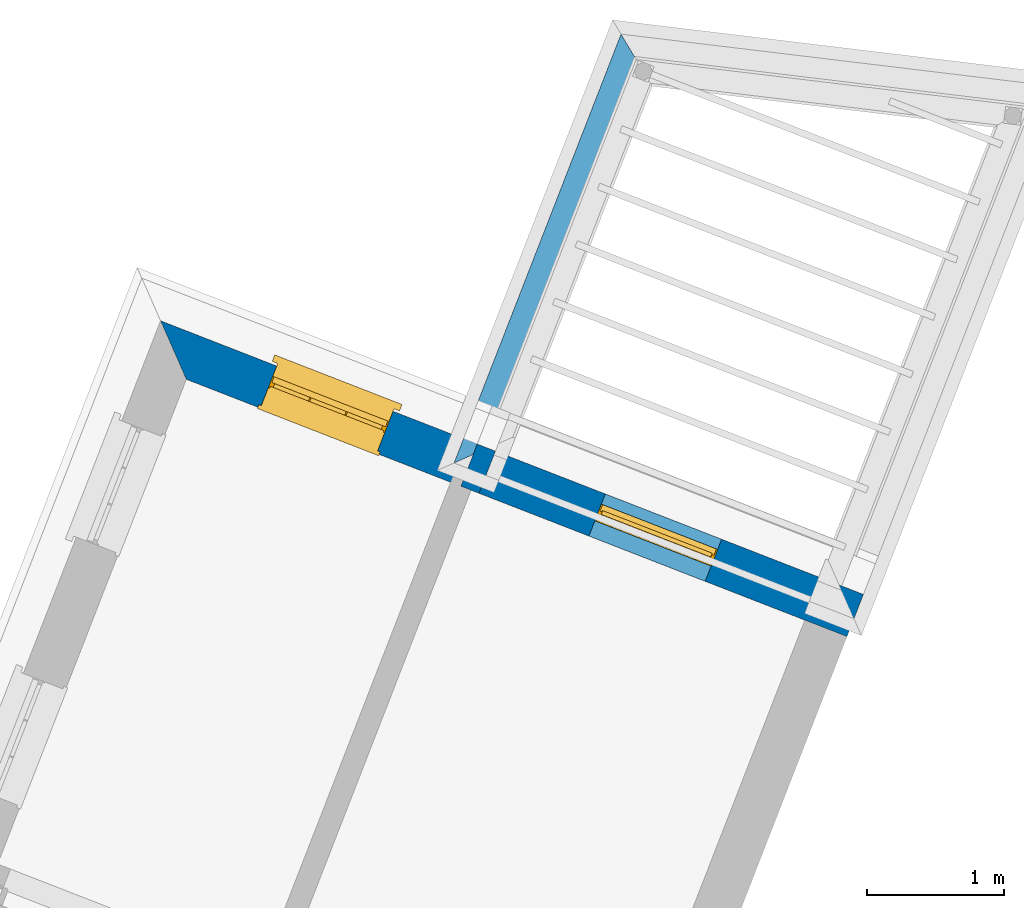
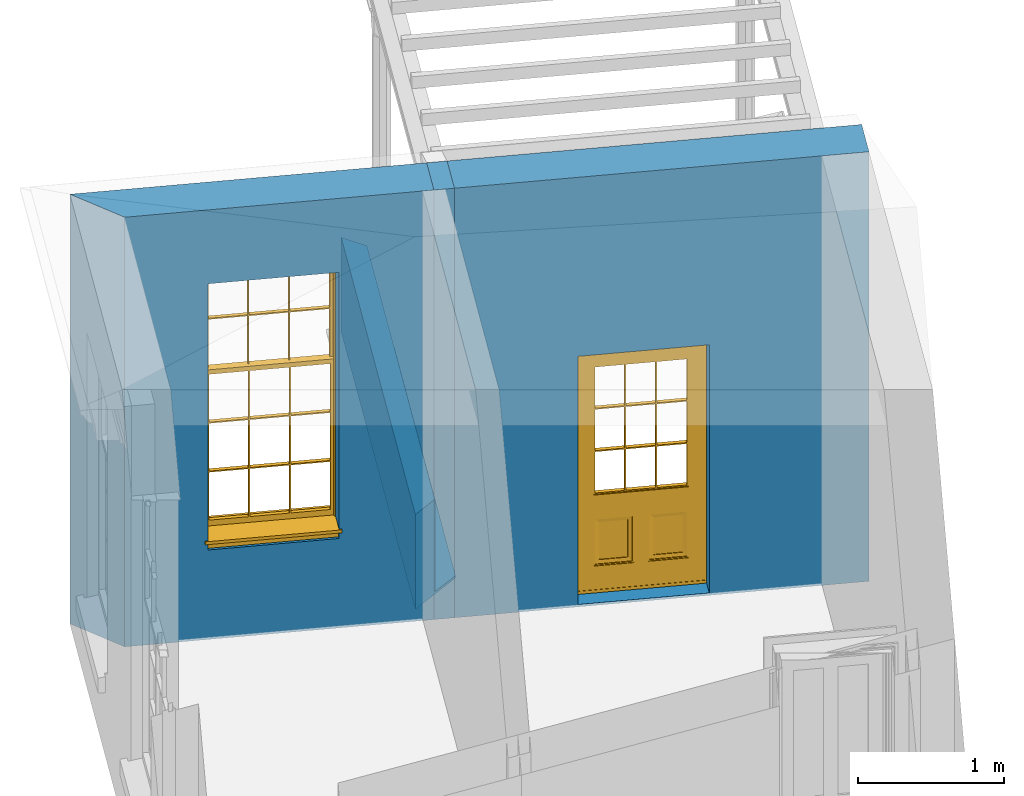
# One storey, part 3 of 4: 4 walls, 1 door, 1 window, 2 openings.
"""IFC4 building model written with IfcOpenShell, lengths in metres."""

from ifc_helpers import new_model, si_unit, frame, origin, origin_with_axes, place, context, subcontext, project, spatial, polyline, outline, extrude, clip, halfspace, faceted_brep, source, transform, mapped, material, layer, layer_set, layer_usage, material_profile, profile_set, profile_usage, type_object, type_shapes, element, fill, save


model = new_model("IFC4")

# Units and contexts
model_context = context("Model", 3, world=origin_with_axes())
body_context = subcontext(model_context, "Body", "Model", "MODEL_VIEW")
ifc_project = project(units=[si_unit("PLANEANGLEUNIT", "RADIAN"), si_unit("MASSUNIT", "GRAM", prefix="KILO"), si_unit("FORCEUNIT", "NEWTON", prefix="KILO"), si_unit("LENGTHUNIT", "METRE"), si_unit("AREAUNIT", "SQUARE_METRE"), si_unit("VOLUMEUNIT", "CUBIC_METRE")], contexts=[model_context, model_context])

# Sites, building, storey
site_1_placement = place(None, origin_with_axes())
site_1 = spatial("IfcSite", under=ifc_project, at=site_1_placement, Name="Tamar")
site_2_placement = place(site_1_placement, origin_with_axes())
site_2 = spatial("IfcSite", under=site_1, at=site_2_placement, Name="Site plot-9", CompositionType="ELEMENT")
building_placement = place(None, origin_with_axes())
building = spatial("IfcBuilding", under=site_2, at=building_placement, Name="Building plot-9", CompositionType="ELEMENT")
storey_placement = place(None, frame((0.0, 0.0, 30.1), z_axis=(0.0, 0.0, 1.0), x_axis=(1.0, 0.0, 0.0)))
storey = spatial("IfcBuildingStorey", under=building, at=storey_placement, Name="plot-9 1", CompositionType="ELEMENT", Elevation=30.1)

# Wall, opening, door
ifc_material = material(Name="Masonry")
ifc_layer = layer(ifc_material, 0.33, ventilated=False)
ifc_layer_set = layer_set([ifc_layer], Name="exterior_0.08_0.25")
ifc_layer_usage = layer_usage(ifc_layer_set, "AXIS2", "POSITIVE", -0.25)
wall_type_1 = type_object("IfcWallType", Name="exterior_0.08_0.25", PredefinedType="SOLIDWALL", material=ifc_layer_set)
wall_1_placement = place(storey_placement, frame((230.50959171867, 319.080953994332, 0.0), z_axis=(0.0, 0.0, 1.0), x_axis=(-0.931863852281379, 0.362808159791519, 0.0)))
wall_1 = element("IfcWall", 1, at=wall_1_placement, inside=storey, type_object=wall_type_1, material=ifc_layer_usage, Name="exterior", context=body_context, shape_type="SweptSolid", body=[
    extrude(outline(polyline([(-0.249999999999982, 0.0799999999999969), (-0.249999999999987, -0.250000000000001), (2.62951862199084, -0.249999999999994), (2.62951862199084, 0.0800000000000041), (-0.249999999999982, 0.0799999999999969)])), origin_with_axes(), (0.0, 0.0, 1.0), 3.6),
])
opening_1_placement = place(wall_1_placement, frame((0.859759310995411, 0.0, 0.0199999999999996)))
opening_1 = element("IfcOpeningElement", 2, at=opening_1_placement, cuts=wall_1, Name="My Opening", ObjectType="Opening", context=body_context, shape_type="SweptSolid", body=[
    extrude(outline(polyline([(0.0, -0.269999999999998), (0.90999999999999, -0.270000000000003), (0.910000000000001, 1.09999999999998), (1.0547118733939e-14, 1.09999999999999), (0.0, -0.269999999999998)])), origin_with_axes(), (0.0, 0.0, 1.0), 2.08),
])
door_type = type_object("IfcDoorType", Name="door_panelled", OperationType="SINGLE_SWING_LEFT", PredefinedType="NOTDEFINED")
shared_shape_1 = source(origin(), body_context, "Body", "Brep", [
    faceted_brep([(0.545, 0.195, 0.265), (0.745, 0.195, 0.265), (0.745, 0.2, 0.265), (0.545, 0.2, 0.265), (0.745, 0.2, 0.58), (0.545, 0.2, 0.58), (0.545, 0.195, 0.58), (0.515, 0.19, 0.235), (0.775, 0.19, 0.235), (0.745, 0.195, 0.58), (0.515, 0.19, 0.61), (0.515, 0.185, 0.235), (0.775, 0.185, 0.235), (0.775, 0.19, 0.61), (0.515, 0.185, 0.61), (0.785, 0.185, 0.225), (0.505, 0.185, 0.225), (0.775, 0.185, 0.61), (0.505, 0.185, 0.62), (0.785, 0.185, 0.62), (0.505, 0.18, 0.225), (0.785, 0.18, 0.225), (0.505, 0.18, 0.62), (0.785, 0.18, 0.62), (0.883, 0.18, 0.075), (0.898, 0.18, 0.075), (0.405, 0.18, 0.62), (0.405, 0.18, 0.225), (0.027, 0.18, 0.075), (0.785, 0.18, 0.82), (0.125, 0.18, 0.82), (0.405, 0.185, 0.62), (0.405, 0.185, 0.225), (0.898, 0.18, 2.068), (0.027, 0.17, 0.075), (0.883, 0.17, 0.075), (0.125, 0.18, 0.225), (0.012, 0.18, 0.075), (0.785, 0.19, 0.82), (0.125, 0.19, 0.82), (0.125, 0.18, 0.62), (0.125, 0.185, 0.62), (0.395, 0.185, 0.61), (0.395, 0.185, 0.235), (0.125, 0.185, 0.225), (0.785, 0.18, 1.895), (0.027, 0.14, 0.045), (0.883, 0.14, 0.045), (0.558333, 0.19, 0.83), (0.351667, 0.19, 0.83), (0.125, 0.18, 1.895), (0.125, 0.19, 1.895), (0.785, 0.19, 1.895), (0.012, 0.18, 2.068), (0.135, 0.185, 0.61), (0.395, 0.19, 0.61), (0.395, 0.19, 0.235), (0.135, 0.185, 0.235), (0.027, 0.14, 0.027), (0.883, 0.14, 0.027), (0.568333, 0.19, 0.83), (0.558333, 0.22, 0.83), (0.351667, 0.22, 0.83), (0.341667, 0.19, 0.83), (0.135, 0.19, 1.185), (0.135, 0.19, 1.53), (0.775, 0.19, 1.53), (0.775, 0.19, 1.185), (0.135, 0.19, 0.61), (0.365, 0.195, 0.58), (0.365, 0.195, 0.265), (0.135, 0.19, 0.235), (0.568333, 0.19, 1.175), (0.558333, 0.19, 1.175), (0.775, 0.19, 0.83), (0.558333, 0.22, 1.175), (0.785, 0.22, 0.82), (0.125, 0.22, 0.82), (0.351667, 0.22, 1.175), (0.351667, 0.19, 1.175), (0.341667, 0.19, 1.175), (0.135, 0.19, 0.83), (0.135, 0.19, 1.175), (0.135, 0.22, 1.185), (0.135, 0.22, 1.53), (0.135, 0.19, 1.54), (0.351667, 0.19, 1.885), (0.558333, 0.19, 1.885), (0.775, 0.22, 1.53), (0.775, 0.22, 1.185), (0.775, 0.19, 1.175), (0.775, 0.19, 1.54), (0.165, 0.195, 0.58), (0.365, 0.2, 0.58), (0.365, 0.2, 0.265), (0.165, 0.195, 0.265), (0.568333, 0.22, 0.83), (0.568333, 0.22, 1.175), (0.568333, 0.19, 1.185), (0.558333, 0.19, 1.185), (0.775, 0.22, 0.83), (0.785, 0.23, 0.82), (0.125, 0.23, 0.82), (0.341667, 0.22, 0.83), (0.341667, 0.22, 1.175), (0.351667, 0.19, 1.185), (0.341667, 0.19, 1.185), (0.135, 0.22, 0.83), (0.341667, 0.22, 1.185), (0.125, 0.22, 1.895), (0.341667, 0.22, 1.53), (0.341667, 0.19, 1.53), (0.135, 0.19, 1.885), (0.341667, 0.19, 1.54), (0.341667, 0.19, 1.885), (0.558333, 0.22, 1.885), (0.351667, 0.22, 1.885), (0.568333, 0.19, 1.885), (0.785, 0.22, 1.895), (0.568333, 0.22, 1.185), (0.568333, 0.19, 1.53), (0.568333, 0.22, 1.53), (0.568333, 0.19, 1.54), (0.775, 0.19, 1.885), (0.165, 0.2, 0.58), (0.165, 0.2, 0.265), (0.775, 0.22, 1.175), (0.558333, 0.19, 1.53), (0.351667, 0.22, 1.185), (0.558333, 0.22, 1.185), (0.505, 0.23, 0.62), (0.405, 0.23, 0.62), (0.125, 0.23, 1.895), (0.785, 0.23, 1.895), (0.351667, 0.19, 1.53), (0.135, 0.22, 1.175), (0.135, 0.22, 1.54), (0.341667, 0.22, 1.54), (0.135, 0.22, 1.885), (0.351667, 0.19, 1.54), (0.558333, 0.22, 1.54), (0.558333, 0.19, 1.54), (0.351667, 0.22, 1.54), (0.775, 0.22, 1.54), (0.568333, 0.22, 1.54), (0.775, 0.22, 1.885), (0.558333, 0.22, 1.53), (0.405, 0.23, 0.225), (0.505, 0.23, 0.225), (0.125, 0.23, 0.62), (0.785, 0.23, 0.62), (0.012, 0.23, 2.068), (0.898, 0.23, 2.068), (0.351667, 0.22, 1.53), (0.341667, 0.22, 1.885), (0.568333, 0.22, 1.885), (0.405, 0.225, 0.225), (0.405, 0.225, 0.62), (0.505, 0.225, 0.62), (0.505, 0.225, 0.225), (0.898, 0.23, 0.027), (0.012, 0.23, 0.027), (0.125, 0.225, 0.62), (0.785, 0.225, 0.62), (0.395, 0.225, 0.235), (0.395, 0.225, 0.61), (0.125, 0.23, 0.225), (0.125, 0.225, 0.225), (0.515, 0.225, 0.61), (0.515, 0.225, 0.235), (0.785, 0.23, 0.225), (0.785, 0.225, 0.225), (0.135, 0.225, 0.61), (0.775, 0.225, 0.61), (0.135, 0.225, 0.235), (0.395, 0.22, 0.235), (0.395, 0.22, 0.61), (0.515, 0.22, 0.61), (0.515, 0.22, 0.235), (0.775, 0.225, 0.235), (0.135, 0.22, 0.61), (0.775, 0.22, 0.61), (0.135, 0.22, 0.235), (0.365, 0.215, 0.265), (0.365, 0.215, 0.58), (0.545, 0.215, 0.58), (0.545, 0.215, 0.265), (0.775, 0.22, 0.235), (0.165, 0.215, 0.58), (0.745, 0.215, 0.58), (0.165, 0.215, 0.265), (0.365, 0.21, 0.58), (0.365, 0.21, 0.265), (0.545, 0.21, 0.58), (0.545, 0.21, 0.265), (0.745, 0.215, 0.265), (0.165, 0.21, 0.58), (0.745, 0.21, 0.58), (0.165, 0.21, 0.265), (0.745, 0.21, 0.265), (0.885, 0.178, 0.025), (0.025, 0.178, 0.025), (0.025, 0.15, 0.025), (0.885, 0.15, 0.025), (0.9, 0.23, 0.025), (0.01, 0.23, 0.025), (0.9, 0.178, 0.025), (0.91, 0.23, 0.0), (0.0, 0.23, 0.0), (0.01, 0.178, 0.025), (0.9, 0.178, 2.07), (0.9, 0.23, 2.07), (0.885, 0.178, 2.055), (0.91, 0.23, 2.08), (0.01, 0.23, 2.07), (0.0, 0.23, 2.08), (0.01, 0.178, 2.07), (0.025, 0.178, 2.055), (0.0, 0.1, 2.08), (0.91, 0.1, 2.08), (0.01, 0.1, 2.07), (0.9, 0.1, 2.07), (0.01, 0.15, 2.07), (0.9, 0.15, 2.07), (0.0, 0.1, 0.0), (0.91, 0.1, 0.0), (0.01, 0.1, 0.025), (0.9, 0.1, 0.025), (0.01, 0.15, 0.025), (0.025, 0.15, 2.055), (0.9, 0.15, 0.025), (0.885, 0.15, 2.055), (0.898, 0.18, 0.027), (0.012, 0.18, 0.027), (0.883, 0.18, 0.027), (0.027, 0.18, 0.027)], [[[0, 1, 2, 3]], [[2, 4, 5, 3]], [[0, 3, 5, 6]], [[1, 0, 7, 8]], [[9, 4, 2, 1]], [[9, 6, 5, 4]], [[0, 6, 10, 7]], [[8, 7, 11, 12]], [[8, 13, 9, 1]], [[13, 10, 6, 9]], [[7, 10, 14, 11]], [[15, 12, 11, 16]], [[12, 17, 13, 8]], [[17, 14, 10, 13]], [[18, 16, 11, 14]], [[15, 19, 17, 12]], [[15, 16, 20, 21]], [[14, 17, 19, 18]], [[16, 18, 22, 20]], [[21, 23, 19, 15]], [[24, 25, 21, 20]], [[23, 22, 18, 19]], [[20, 22, 26, 27]], [[23, 21, 25]], [[28, 24, 20, 27]], [[22, 23, 29]], [[29, 30, 26, 22]], [[27, 26, 31, 32]], [[23, 25, 33, 29]], [[34, 35, 24, 28]], [[28, 27, 36, 37]], [[38, 39, 30, 29]], [[26, 30, 40]], [[26, 40, 41, 31]], [[42, 43, 32, 31]], [[32, 44, 36, 27]], [[33, 45, 29]], [[46, 47, 35, 34]], [[36, 40, 37]], [[39, 38, 48, 49]], [[50, 30, 39, 51]], [[29, 45, 52, 38]], [[53, 37, 40, 30]], [[44, 41, 40, 36]], [[31, 41, 54, 42]], [[43, 42, 55, 56]], [[57, 44, 32, 43]], [[50, 45, 33, 53]], [[47, 46, 58, 59]], [[60, 48, 38]], [[49, 48, 61, 62]], [[49, 63, 39]], [[50, 53, 30]], [[51, 39, 64, 65]], [[45, 50, 51, 52]], [[66, 67, 38, 52]], [[57, 54, 41, 44]], [[42, 54, 68, 55]], [[56, 55, 69, 70]], [[56, 71, 57, 43]], [[60, 72, 73, 48]], [[60, 38, 74]], [[48, 73, 75, 61]], [[76, 77, 62, 61]], [[62, 78, 79, 49]], [[49, 79, 80, 63]], [[63, 81, 39]], [[82, 64, 39]], [[65, 64, 83, 84]], [[85, 51, 65]], [[52, 51, 86, 87]], [[88, 89, 67, 66]], [[90, 38, 67]], [[91, 66, 52]], [[71, 68, 54, 57]], [[55, 68, 92, 69]], [[69, 93, 94, 70]], [[70, 95, 71, 56]], [[96, 97, 72, 60]], [[73, 72, 98, 99]], [[74, 38, 90]], [[100, 96, 60, 74]], [[75, 73, 79, 78]], [[61, 75, 97, 96]], [[101, 102, 77, 76]], [[77, 103, 62]], [[96, 76, 61]], [[103, 104, 78, 62]], [[80, 79, 105, 106]], [[63, 80, 104, 103]], [[81, 63, 103, 107]], [[81, 82, 39]], [[106, 64, 82, 80]], [[106, 108, 83, 64]], [[84, 83, 77, 109]], [[110, 111, 65, 84]], [[112, 51, 85]], [[113, 85, 65, 111]], [[114, 86, 51]], [[115, 87, 86, 116]], [[117, 52, 87]], [[118, 76, 89, 88]], [[119, 98, 67, 89]], [[120, 121, 88, 66]], [[67, 98, 72, 90]], [[91, 122, 120, 66]], [[91, 52, 123]], [[95, 92, 68, 71]], [[69, 92, 124, 93]], [[94, 93, 124, 125]], [[94, 125, 95, 70]], [[72, 97, 126, 90]], [[127, 99, 98, 120]], [[99, 105, 79, 73]], [[74, 90, 126, 100]], [[96, 100, 76]], [[128, 129, 75, 78]], [[97, 75, 129, 119]], [[130, 131, 102, 101]], [[109, 77, 102, 132]], [[133, 101, 76, 118]], [[77, 107, 103]], [[78, 104, 108, 128]], [[111, 106, 105, 134]], [[104, 80, 82, 135]], [[107, 135, 82, 81]], [[110, 108, 106, 111]], [[104, 135, 83, 108]], [[83, 135, 77]], [[136, 84, 109]], [[110, 84, 136, 137]], [[114, 51, 112]], [[85, 136, 138, 112]], [[113, 137, 136, 85]], [[111, 134, 139, 113]], [[86, 114, 113, 139]], [[140, 141, 87, 115]], [[139, 142, 116, 86]], [[109, 118, 115, 116]], [[117, 123, 52]], [[117, 87, 141, 122]], [[126, 89, 76]], [[143, 118, 88]], [[120, 98, 119, 121]], [[119, 89, 126, 97]], [[144, 143, 88, 121]], [[144, 122, 91, 143]], [[127, 120, 122, 141]], [[143, 91, 123, 145]], [[124, 92, 95, 125]], [[146, 129, 99, 127]], [[99, 129, 128, 105]], [[100, 126, 76]], [[121, 119, 129, 146]], [[147, 131, 130, 148]], [[131, 149, 102]], [[130, 101, 150]], [[102, 151, 132]], [[118, 109, 132, 133]], [[101, 133, 152]], [[107, 77, 135]], [[153, 128, 108, 110]], [[134, 105, 128, 153]], [[109, 138, 136]], [[153, 110, 137, 142]], [[154, 114, 112, 138]], [[137, 113, 114, 154]], [[141, 139, 134, 127]], [[141, 140, 142, 139]], [[144, 140, 115, 155]], [[142, 137, 154, 116]], [[155, 115, 118]], [[116, 154, 109]], [[117, 155, 145, 123]], [[122, 144, 155, 117]], [[143, 145, 118]], [[121, 146, 140, 144]], [[146, 127, 134, 153]], [[156, 157, 131, 147]], [[148, 130, 158, 159]], [[148, 160, 161, 147]], [[157, 162, 149, 131]], [[161, 151, 102, 149]], [[101, 152, 160, 150]], [[163, 158, 130, 150]], [[151, 152, 133, 132]], [[154, 138, 109]], [[142, 140, 146, 153]], [[145, 155, 118]], [[157, 156, 164, 165]], [[147, 166, 167, 156]], [[168, 169, 159, 158]], [[170, 148, 159, 171]], [[148, 170, 160]], [[166, 147, 161]], [[172, 162, 157, 165]], [[166, 149, 162, 167]], [[166, 161, 149]], [[150, 160, 170]], [[163, 173, 168, 158]], [[171, 163, 150, 170]], [[174, 164, 156, 167]], [[175, 176, 165, 164]], [[169, 168, 177, 178]], [[171, 159, 169, 179]], [[167, 162, 172, 174]], [[176, 180, 172, 165]], [[179, 173, 163, 171]], [[181, 177, 168, 173]], [[164, 174, 182, 175]], [[183, 184, 176, 175]], [[178, 177, 185, 186]], [[179, 169, 178, 187]], [[174, 172, 180, 182]], [[184, 188, 180, 176]], [[187, 181, 173, 179]], [[189, 185, 177, 181]], [[175, 182, 190, 183]], [[191, 184, 183, 192]], [[185, 193, 194, 186]], [[187, 178, 186, 195]], [[182, 180, 188, 190]], [[191, 196, 188, 184]], [[195, 189, 181, 187]], [[197, 193, 185, 189]], [[183, 190, 198, 192]], [[198, 196, 191, 192]], [[194, 193, 197, 199]], [[195, 186, 194, 199]], [[188, 196, 198, 190]], [[197, 189, 195, 199]], [[200, 201, 202, 203]], [[201, 200, 204, 205]], [[206, 204, 200]], [[204, 207, 208, 205]], [[209, 201, 205]], [[210, 211, 204, 206]], [[206, 200, 212, 210]], [[211, 213, 207, 204]], [[214, 205, 208, 215]], [[216, 217, 201, 209]], [[205, 214, 216, 209]], [[216, 214, 211, 210]], [[210, 212, 217, 216]], [[214, 215, 213, 211]], [[218, 219, 213, 215]], [[219, 218, 220, 221]], [[221, 220, 222, 223]], [[215, 208, 224, 218]], [[225, 224, 208, 207]], [[224, 226, 220, 218]], [[224, 225, 227, 226]], [[219, 225, 207, 213]], [[228, 222, 220, 226]], [[219, 221, 227, 225]], [[226, 227, 203, 202]], [[202, 229, 222, 228]], [[228, 226, 202]], [[227, 221, 223, 230]], [[230, 203, 227]], [[217, 229, 202, 201]], [[231, 223, 222, 229]], [[230, 223, 231, 203]], [[231, 229, 217, 212]], [[212, 200, 203, 231]], [[33, 152, 151, 53]], [[25, 160, 152, 33]], [[161, 37, 53, 151]], [[232, 160, 25]], [[161, 233, 37]], [[160, 232, 234]], [[24, 234, 232, 25]], [[233, 161, 235]], [[37, 233, 235, 28]], [[161, 160, 234, 235]], [[35, 47, 234, 24]], [[28, 235, 46, 34]], [[58, 235, 234, 59]], [[59, 234, 47]], [[58, 46, 235]]]),
])
type_shapes(door_type, [shared_shape_1])
door_placement = place(storey_placement, frame((229.806371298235, 319.644484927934, 0.0199999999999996), z_axis=(0.0, 0.0, 1.0), x_axis=(-0.847996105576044, 0.330155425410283, 0.0)))
door = element("IfcDoor", 3, at=door_placement, inside=storey, type_object=door_type, Name="bedroom outside door", OverallHeight=2.08, OverallWidth=0.91, context=body_context, shape_type="MappedRepresentation", body=[
    mapped(shared_shape_1, transform((0.0, 0.0, 0.0), scale=1.0)),
])
fill(opening_1, door)

# Wall
wall_2_placement = place(storey_placement, frame((228.059238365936, 320.034964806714, 0.0), z_axis=(0.0, 0.0, 1.0), x_axis=(-0.93186385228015, 0.362808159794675, 0.0)))
element("IfcWall", 4, at=wall_2_placement, inside=storey, type_object=wall_type_1, material=ifc_layer_usage, Name="exterior", context=body_context, shape_type="SweptSolid", body=[
    extrude(outline(polyline([(-2.58383967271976e-13, 0.0800000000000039), (8.53776814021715e-13, -0.249999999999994), (0.142224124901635, -0.250000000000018), (0.142224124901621, 0.0799999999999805), (-2.58383967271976e-13, 0.0800000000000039)])), origin_with_axes(), (0.0, 0.0, 1.0), 3.6),
])

# Wall, opening, window
wall_3_placement = place(storey_placement, frame((227.926704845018, 320.086564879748, 0.0), z_axis=(0.0, 0.0, 1.0), x_axis=(-0.931863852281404, 0.362808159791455, 0.0)))
wall_3 = element("IfcWall", 5, at=wall_3_placement, inside=storey, type_object=wall_type_1, material=ifc_layer_usage, Name="exterior", context=body_context, shape_type="SweptSolid", body=[
    extrude(outline(polyline([(2.71254587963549e-13, 0.0799999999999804), (-8.54911932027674e-13, -0.250000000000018), (2.47825725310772, -0.250000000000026), (2.14825725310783, 0.0799999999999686), (2.71254587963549e-13, 0.0799999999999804)])), origin_with_axes(), (0.0, 0.0, 1.0), 3.6),
])
opening_2_placement = place(wall_3_placement, frame((0.659128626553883, 0.0, 0.75)))
opening_2 = element("IfcOpeningElement", 6, at=opening_2_placement, cuts=wall_3, Name="My Opening", ObjectType="Opening", context=body_context, shape_type="SweptSolid", body=[
    extrude(outline(polyline([(0.0, -0.269999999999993), (0.910000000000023, -0.269999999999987), (0.910000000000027, 1.10000000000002), (5.10702591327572e-15, 1.10000000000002), (0.0, -0.269999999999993)])), origin_with_axes(), (0.0, 0.0, 1.0), 2.23),
])
window_type = type_object("IfcWindowType", Name="sash_big_taller", PartitioningType="DOUBLE_PANEL_HORIZONTAL", PredefinedType="NOTDEFINED")
shared_shape_2 = source(origin(), body_context, "Body", "Brep", [
    faceted_brep([(0.033125, 0.145, 1.385209), (0.01, 0.145, 1.385209), (0.033125, 0.145, 1.786042), (0.876875, 0.145, 1.385209), (0.876875, 0.145, 1.786042), (0.9, 0.145, 1.385209), (0.876875, 0.145, 1.796042), (0.876875, 0.145, 2.196875), (0.9, 0.145, 2.22), (0.033125, 0.145, 2.196875), (0.033125, 0.145, 1.796042), (0.01, 0.145, 2.22), (0.876875, 0.115, 1.786042), (0.876875, 0.115, 1.385209), (0.9, 0.115, 1.347084), (0.033125, 0.115, 2.196875), (0.01, 0.115, 2.22), (0.033125, 0.115, 1.796042), (0.01, 0.115, 1.347084), (0.033125, 0.115, 1.385209), (0.033125, 0.115, 1.786042), (0.876875, 0.115, 2.196875), (0.876875, 0.115, 1.796042), (0.9, 0.115, 2.22), (0.033125, 0.145, 1.347084), (0.01, 0.145, 1.347084), (0.033125, 0.145, 0.94625), (0.876875, 0.145, 1.347084), (0.876875, 0.145, 0.94625), (0.9, 0.145, 1.347084), (0.876875, 0.145, 0.52625), (0.876875, 0.145, 0.125417), (0.9, 0.145, 0.077167), (0.033125, 0.145, 0.125417), (0.033125, 0.145, 0.52625), (0.01, 0.145, 0.077167), (-0.0425, 0.0, 0.01), (-0.0425, -0.05, 0.001667), (0.0, 0.0, 0.01), (0.9525, 0.0, 0.01), (0.91, 0.0, 0.01), (0.9525, -0.05, 0.001667), (-0.02, 0.33, 0.077167), (0.0, 0.33, 0.077167), (-0.02, 0.36, 0.077167), (0.0, 0.19, 0.077167), (0.01, 0.19, 0.077167), (0.91, 0.19, 0.077167), (0.91, 0.33, 0.077167), (0.9, 0.19, 0.077167), (0.93, 0.33, 0.077167), (0.93, 0.36, 0.077167), (0.01, 0.175, 1.385209), (0.9, 0.175, 1.385209), (0.876875, 0.175, 0.125417), (0.876875, 0.175, 0.52625), (0.9, 0.175, 0.077167), (0.876875, 0.175, 0.94625), (0.876875, 0.175, 1.347084), (0.033125, 0.175, 0.125417), (0.01, 0.175, 0.077167), (0.033125, 0.175, 0.52625), (0.033125, 0.175, 1.347084), (0.033125, 0.175, 0.94625), (-0.02, 0.33, 0.052167), (-0.02, 0.36, 0.052167), (0.93, 0.36, 0.052167), (0.93, 0.33, 0.052167), (0.91, 0.33, 0.052167), (0.0, 0.33, 0.052167), (0.91, 0.1, 0.026667), (0.0, 0.1, 0.026667), (-0.0425, -0.05, -0.123333), (0.9525, -0.05, -0.123333), (-0.0425, 0.0, -0.123333), (0.9525, 0.0, -0.123333), (0.01, 0.19, 2.22), (0.9, 0.19, 2.22), (0.0, 0.19, 2.23), (0.91, 0.19, 2.23), (0.01, 0.1, 0.077167), (0.9, 0.1, 0.077167), (0.592292, 0.145, 0.125417), (0.592292, 0.175, 0.125417), (0.317708, 0.175, 0.125417), (0.317708, 0.145, 0.125417), (0.592292, 0.145, 0.53625), (0.317708, 0.145, 0.53625), (0.317708, 0.145, 0.52625), (0.592292, 0.145, 0.52625), (0.592292, 0.175, 0.53625), (0.317708, 0.175, 0.53625), (0.592292, 0.115, 1.796042), (0.592292, 0.145, 1.796042), (0.317708, 0.145, 1.796042), (0.317708, 0.115, 1.796042), (0.317708, 0.115, 1.786042), (0.592292, 0.115, 1.786042), (0.317708, 0.145, 1.786042), (0.592292, 0.145, 1.786042), (0.602292, 0.115, 1.786042), (0.592292, 0.115, 1.385209), (0.602292, 0.115, 1.385209), (0.602292, 0.145, 1.385209), (0.592292, 0.145, 1.385209), (0.602292, 0.145, 1.786042), (0.876875, 0.145, 0.53625), (0.876875, 0.175, 0.53625), (0.602292, 0.175, 0.53625), (0.602292, 0.145, 0.53625), (0.317708, 0.175, 0.52625), (0.307708, 0.175, 0.125417), (0.307708, 0.175, 0.52625), (0.602292, 0.175, 0.52625), (0.602292, 0.175, 0.125417), (0.592292, 0.175, 0.52625), (0.307708, 0.175, 0.53625), (0.033125, 0.175, 0.53625), (0.317708, 0.175, 1.347084), (0.317708, 0.175, 0.94625), (0.307708, 0.175, 0.94625), (0.307708, 0.175, 1.347084), (0.602292, 0.175, 1.347084), (0.602292, 0.175, 0.94625), (0.592292, 0.175, 0.94625), (0.592292, 0.175, 1.347084), (0.307708, 0.145, 0.52625), (0.307708, 0.145, 0.125417), (0.307708, 0.145, 0.53625), (0.033125, 0.145, 0.53625), (0.307708, 0.145, 1.347084), (0.307708, 0.145, 0.94625), (0.592292, 0.145, 1.347084), (0.592292, 0.145, 0.94625), (0.317708, 0.145, 0.94625), (0.317708, 0.145, 1.347084), (0.602292, 0.145, 0.94625), (0.602292, 0.145, 1.347084), (0.602292, 0.145, 0.52625), (0.602292, 0.145, 0.125417), (0.307708, 0.115, 1.796042), (0.307708, 0.115, 1.786042), (0.307708, 0.115, 1.385209), (0.317708, 0.115, 1.385209), (0.317708, 0.115, 2.196875), (0.307708, 0.115, 2.196875), (0.602292, 0.115, 2.196875), (0.592292, 0.115, 2.196875), (0.602292, 0.115, 1.796042), (0.602292, 0.145, 1.796042), (0.307708, 0.145, 1.796042), (0.307708, 0.145, 2.196875), (0.317708, 0.145, 2.196875), (0.592292, 0.145, 2.196875), (0.602292, 0.145, 2.196875), (0.307708, 0.145, 1.786042), (0.317708, 0.145, 1.385209), (0.307708, 0.145, 1.385209), (0.876875, 0.175, 0.93625), (0.033125, 0.175, 0.93625), (0.033125, 0.145, 0.93625), (0.876875, 0.145, 0.93625), (0.91, 0.1, 2.23), (0.9, 0.1, 2.22), (0.01, 0.1, 2.22), (0.0, 0.1, 2.23), (0.91, 0.0, 0.0), (0.0, 0.0, 0.0), (0.91, 0.33, 0.0), (0.0, 0.33, 0.0), (0.317708, 0.145, 0.93625), (0.592292, 0.145, 0.93625), (0.317708, 0.175, 0.93625), (0.307708, 0.175, 0.93625), (0.602292, 0.175, 0.93625), (0.592292, 0.175, 0.93625), (0.307708, 0.145, 0.93625), (0.602292, 0.145, 0.93625)], [[[0, 1, 2]], [[3, 4, 5]], [[6, 7, 8]], [[9, 10, 11]], [[12, 13, 14]], [[15, 16, 17]], [[18, 19, 20]], [[21, 22, 23]], [[24, 25, 26]], [[27, 28, 29]], [[30, 31, 32]], [[33, 34, 35]], [[14, 27, 29]], [[25, 24, 18]], [[36, 37, 38]], [[39, 40, 41]], [[42, 43, 44]], [[45, 46, 43]], [[47, 48, 49]], [[50, 51, 48]], [[1, 0, 52]], [[5, 53, 3]], [[54, 55, 56]], [[57, 58, 53]], [[59, 60, 61]], [[62, 63, 52]], [[48, 43, 46, 49]], [[51, 44, 43, 48]], [[64, 42, 44, 65]], [[65, 44, 51, 66]], [[66, 51, 50, 67]], [[65, 66, 68, 69]], [[60, 56, 49, 46]], [[70, 71, 38, 40]], [[37, 41, 40, 38]], [[37, 72, 73, 41]], [[74, 75, 73, 72]], [[8, 11, 76, 77]], [[76, 78, 79, 77]], [[32, 35, 80, 81]], [[81, 80, 71, 70]], [[82, 83, 84, 85]], [[86, 87, 88, 89]], [[86, 90, 91, 87]], [[92, 93, 94, 95]], [[92, 95, 96, 97]], [[96, 98, 99, 97]], [[100, 97, 101, 102]], [[103, 104, 99, 105]], [[97, 99, 104, 101]], [[102, 103, 105, 100]], [[106, 107, 108, 109]], [[110, 84, 111, 112]], [[113, 114, 83, 115]], [[116, 112, 61, 117]], [[90, 115, 110, 91]], [[118, 119, 120, 121]], [[122, 123, 124, 125]], [[113, 108, 107, 55]], [[126, 112, 111, 127]], [[34, 61, 112, 126]], [[89, 115, 83, 82]], [[88, 110, 115, 89]], [[85, 84, 110, 88]], [[128, 116, 117, 129]], [[130, 121, 120, 131]], [[132, 125, 124, 133]], [[134, 119, 118, 135]], [[136, 123, 122, 137]], [[138, 113, 55, 30]], [[139, 114, 113, 138]], [[138, 30, 106, 109]], [[88, 126, 127, 85]], [[138, 89, 82, 139]], [[137, 132, 133, 136]], [[128, 129, 34, 126]], [[135, 130, 131, 134]], [[140, 17, 20, 141]], [[96, 141, 142, 143]], [[144, 145, 140, 95]], [[146, 147, 92, 148]], [[100, 12, 22, 148]], [[149, 6, 4, 105]], [[94, 150, 151, 152]], [[149, 93, 153, 154]], [[99, 98, 94, 93]], [[155, 2, 10, 150]], [[156, 157, 155, 98]], [[141, 155, 157, 142]], [[20, 2, 155, 141]], [[143, 156, 98, 96]], [[140, 150, 10, 17]], [[145, 151, 150, 140]], [[147, 153, 93, 92]], [[95, 94, 152, 144]], [[22, 6, 149, 148]], [[148, 149, 154, 146]], [[100, 105, 4, 12]], [[109, 86, 89, 138]], [[108, 113, 115, 90]], [[91, 110, 112, 116]], [[87, 128, 126, 88]], [[97, 100, 148, 92]], [[141, 96, 95, 140]], [[98, 155, 150, 94]], [[105, 99, 93, 149]], [[143, 101, 104, 156]], [[135, 118, 125, 132]], [[144, 152, 153, 147]], [[127, 111, 59, 33]], [[15, 9, 151, 145]], [[146, 154, 7, 21]], [[31, 54, 114, 139]], [[36, 74, 72, 37]], [[39, 41, 73, 75]], [[18, 14, 101, 143]], [[23, 16, 144, 147]], [[83, 56, 60, 84]], [[52, 53, 125, 118]], [[53, 52, 156, 104]], [[11, 8, 153, 152]], [[14, 18, 135, 132]], [[2, 1, 11, 10]], [[8, 5, 4, 6]], [[57, 53, 56, 158]], [[60, 52, 63, 159]], [[26, 25, 35, 160]], [[32, 29, 28, 161]], [[14, 23, 22, 12]], [[18, 20, 17, 16]], [[19, 0, 2, 20]], [[17, 10, 9, 15]], [[12, 4, 3, 13]], [[21, 7, 6, 22]], [[27, 58, 57, 28]], [[30, 55, 54, 31]], [[33, 59, 61, 34]], [[26, 63, 62, 24]], [[5, 8, 77, 53]], [[76, 11, 1, 52]], [[46, 45, 78, 76]], [[49, 77, 79, 47]], [[70, 162, 163, 81]], [[71, 80, 164, 165]], [[19, 142, 157, 0]], [[102, 13, 3, 103]], [[121, 130, 24, 62]], [[29, 32, 81, 14]], [[80, 35, 25, 18]], [[60, 46, 76, 52]], [[77, 49, 56, 53]], [[23, 14, 81, 163]], [[16, 164, 80, 18]], [[35, 85, 127]], [[127, 33, 35]], [[139, 82, 32]], [[32, 31, 139]], [[32, 82, 85, 35]], [[102, 101, 14]], [[14, 13, 102]], [[18, 143, 142]], [[142, 19, 18]], [[146, 21, 23]], [[23, 147, 146]], [[16, 15, 145]], [[145, 144, 16]], [[11, 152, 151]], [[151, 9, 11]], [[154, 153, 8]], [[8, 7, 154]], [[23, 163, 164, 16]], [[162, 165, 164, 163]], [[52, 118, 121]], [[121, 62, 52]], [[125, 53, 122]], [[58, 122, 53]], [[27, 137, 122, 58]], [[56, 83, 114]], [[114, 54, 56]], [[111, 84, 60]], [[60, 59, 111]], [[137, 27, 14]], [[14, 132, 137]], [[130, 135, 18]], [[18, 24, 130]], [[157, 156, 52]], [[52, 0, 157]], [[103, 3, 53]], [[53, 104, 103]], [[79, 78, 165, 162]], [[78, 45, 71, 165]], [[162, 70, 47, 79]], [[166, 75, 74, 167]], [[68, 66, 67]], [[48, 68, 67, 50]], [[69, 64, 65]], [[42, 64, 69, 43]], [[69, 68, 168, 169]], [[70, 68, 48, 47]], [[166, 168, 68, 70]], [[43, 69, 71, 45]], [[69, 169, 167, 71]], [[168, 166, 167, 169]], [[38, 167, 74, 36]], [[71, 167, 38]], [[39, 75, 166, 40]], [[40, 166, 70]], [[133, 134, 170, 171]], [[133, 124, 119, 134]], [[28, 57, 123, 136]], [[172, 91, 116, 173]], [[174, 108, 90, 175]], [[120, 173, 159, 63]], [[124, 175, 172, 119]], [[174, 123, 57, 158]], [[176, 173, 116, 128]], [[160, 159, 173, 176]], [[171, 175, 90, 86]], [[170, 172, 175, 171]], [[87, 91, 172, 170]], [[131, 120, 63, 26]], [[177, 174, 158, 161]], [[109, 108, 174, 177]], [[177, 161, 28, 136]], [[170, 176, 128, 87]], [[177, 171, 86, 109]], [[131, 26, 160, 176]], [[136, 133, 171, 177]], [[123, 174, 175, 124]], [[119, 172, 173, 120]], [[134, 131, 176, 170]], [[129, 117, 159, 160]], [[161, 158, 107, 106]], [[35, 34, 129]], [[35, 129, 160]], [[32, 106, 30]], [[32, 161, 106]], [[56, 55, 107]], [[56, 107, 158]], [[60, 117, 61]], [[60, 159, 117]]]),
])
type_shapes(window_type, [shared_shape_2])
window_placement = place(storey_placement, frame((227.410444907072, 320.57730536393, 0.75), z_axis=(0.0, 0.0, 1.0), x_axis=(-0.847996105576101, 0.330155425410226, 0.0)))
window = element("IfcWindow", 7, at=window_placement, inside=storey, type_object=window_type, Name="toilet sahn window", OverallHeight=2.23, OverallWidth=0.91, context=body_context, shape_type="MappedRepresentation", body=[
    mapped(shared_shape_2, transform((0.0, 0.0, 0.0), scale=1.0)),
])
fill(opening_2, window)

# Wall
ifc_material_profile = material_profile(None, outline(polyline([(0.25, 0.0), (0.25, 0.795), (0.09, 0.795), (0.09, 0.02), (-0.08, 0.02), (-0.08, 0.0), (0.25, 0.0)])))
ifc_profile_set = profile_set([ifc_material_profile])
ifc_profile_usage = profile_usage(ifc_profile_set)
wall_type_2 = type_object("IfcWallType", Name="parapet_0", PredefinedType="PARAPET", material=ifc_profile_set)
wall_4_placement = place(storey_placement, frame((227.80890073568, 319.39197874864, 0.0), z_axis=(0.362808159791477, 0.931863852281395, 0.0), x_axis=(-0.931863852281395, 0.362808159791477, 0.0)))
element("IfcWall", 8, at=wall_4_placement, inside=storey, type_object=wall_type_2, material=ifc_profile_usage, Name="parapet_0", context=body_context, shape_type="Clipping", body=[
    clip(clip(extrude(outline(polyline([(0.25, 0.0), (0.25, 0.795), (0.09, 0.795), (0.09, 0.02), (-0.08, 0.02), (-0.08, 0.0), (0.25, 0.0)])), origin_with_axes(), (0.0, 0.0, 1.0), 4.91198165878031), halfspace(frame((0.0, 0.0, 3.91198165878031), z_axis=(0.612837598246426, 0.0, -0.790208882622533), x_axis=(0.0, 1.0, 0.0)), True)), halfspace(frame((0.0, 0.0, 1.0), z_axis=(-0.707106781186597, 0.0, -0.707106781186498), x_axis=(0.0, 1.0, 0.0)), False)),
])

save(model, "model.ifc")
